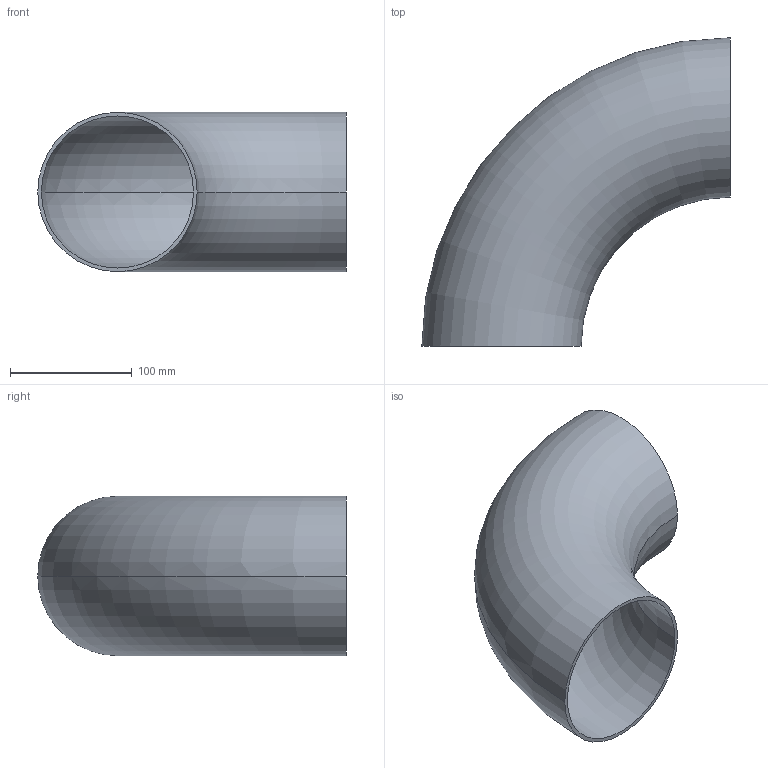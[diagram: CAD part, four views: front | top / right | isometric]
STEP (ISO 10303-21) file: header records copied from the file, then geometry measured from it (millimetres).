
FILE_DESCRIPTION (( 'STEP AP203' ), '1' );
FILE_NAME ('OT212-125-131x3_OSTP.step', '2020-12-16T02:45:30', ( '' ), ( '' ), 'SwSTEP 2.0', 'SolidWorks 2014', '' );
FILE_SCHEMA (( 'CONFIG_CONTROL_DESIGN' ));
Length unit declared in the file: millimetre
Products named in the file (1): OT212-125-131x3_OSTP
Bounding box: 253.5 x 253.5 x 131 mm (x, y, z)
Volume: 356253.2 mm3; surface area: 239914.9 mm2
Topology: 1 solids, 1 shells, 6 faces, 12 edges, 8 vertices
Faces by surface type: torus 4, plane 2
Entity records: 249 total; most frequent: DIRECTION 38, CARTESIAN_POINT 27, ORIENTED_EDGE 24, AXIS2_PLACEMENT_3D 19, EDGE_CURVE 12, CIRCLE 12, VERTEX_POINT 8, EDGE_LOOP 8
